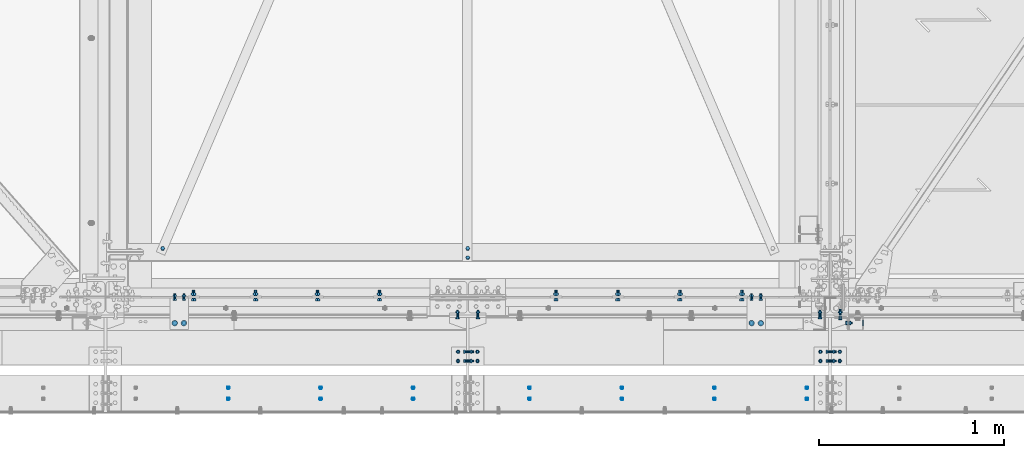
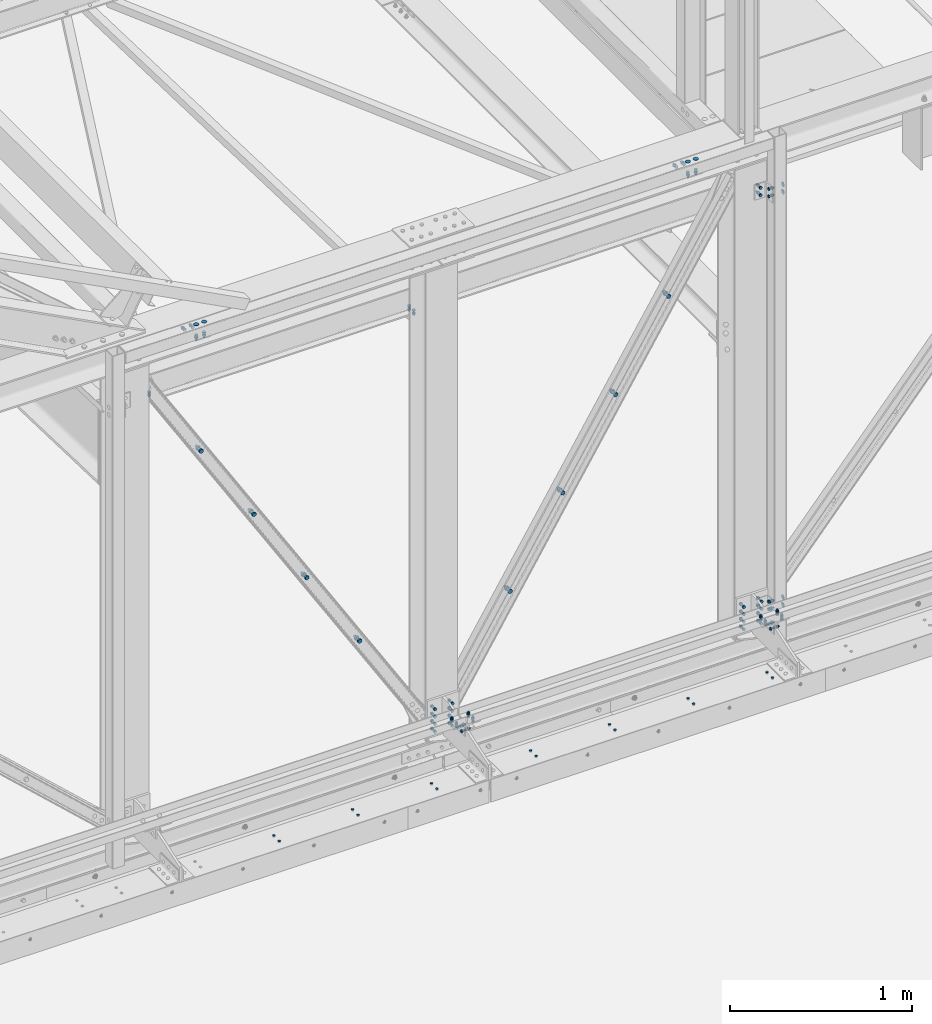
# One storey, part 259 of 362: 42 mechanical fasteners.
"""IFC2X3 building model written with IfcOpenShell, lengths in millimetres."""

import ifcopenshell
import ifcopenshell.guid

model = None  # the IFC model being written
_history = None  # IfcOwnerHistory: only IFC2X3 demands one
_inside = {}  # id of a spatial element -> (the spatial element, [elements in it])
_under = {}  # id of a project, library or spatial element -> (it, [spatial elements below it])
_declared = {}  # id of a project -> (the project, [libraries it declares])
_typed = {}  # id of a type object -> (the type object, [elements of that type])
_made_of = {}  # id of a material, layer set ... -> (it, [elements and type objects made of it])


def new_model(schema):
    """Start an empty IFC model of exactly this schema.

    Asked for "IFC4X3", IfcOpenShell would pick the latest addendum, in which some entities
    have other attributes; the version numbers below select the first issue.
    IFC2X3 requires an IfcOwnerHistory on every rooted entity: one is made here for all.
    """
    global model, _history
    if schema == "IFC4X3":
        model = ifcopenshell.file(schema_version=(4, 3, 0, 0))
    else:
        model = ifcopenshell.file(schema=schema)
    _inside.clear()
    _under.clear()
    _declared.clear()
    _typed.clear()
    _made_of.clear()
    _history = None
    if model.schema == "IFC2X3":
        org = make("IfcOrganization", Name="unknown")
        user = make(
            "IfcPersonAndOrganization",
            ThePerson=make("IfcPerson", FamilyName="unknown"),
            TheOrganization=org,
        )
        app = make(
            "IfcApplication",
            ApplicationDeveloper=org,
            Version="unknown",
            ApplicationFullName="unknown",
            ApplicationIdentifier="unknown",
        )
        _history = make(
            "IfcOwnerHistory",
            OwningUser=user,
            OwningApplication=app,
            ChangeAction="ADDED",
            CreationDate=0,
        )
    return model


def make(cls, **values):
    """One entity of the class cls with the attributes given. An attribute that is None is left unset."""
    return model.create_entity(
        cls, **{name: value for name, value in values.items() if value is not None}
    )


def rooted(cls, **values):
    """An entity with a GlobalId (a new one), such as an element, a storey or a relation."""
    return make(cls, GlobalId=ifcopenshell.guid.new(), OwnerHistory=_history, **values)


def si_unit(unit_type, name, prefix=None):
    """IfcSIUnit, for example si_unit("LENGTHUNIT", "METRE", prefix="MILLI")."""
    return make("IfcSIUnit", UnitType=unit_type, Prefix=prefix, Name=name)


def assignment(units):
    """IfcUnitAssignment: the units of a project."""
    return None if units is None else make("IfcUnitAssignment", Units=units)


def point(xyz):
    """IfcCartesianPoint."""
    return None if xyz is None else make("IfcCartesianPoint", Coordinates=xyz)


def direction(xyz):
    """IfcDirection."""
    return None if xyz is None else make("IfcDirection", DirectionRatios=xyz)


def frame(location, z_axis=None, x_axis=None):
    """IfcAxis2Placement3D, a coordinate frame: its origin and axes. An axis left out is left unset."""
    return make(
        "IfcAxis2Placement3D",
        Location=point(location),
        Axis=direction(z_axis),
        RefDirection=direction(x_axis),
    )


def frame_2d(location, x_axis=None):
    """IfcAxis2Placement2D, a coordinate frame in the plane: its origin and x axis."""
    return make(
        "IfcAxis2Placement2D", Location=point(location), RefDirection=direction(x_axis)
    )


def origin_with_axes():
    """The frame at (0, 0, 0) with the z axis (0, 0, 1) and the x axis (1, 0, 0) written out."""
    return frame((0.0, 0.0, 0.0), z_axis=(0.0, 0.0, 1.0), x_axis=(1.0, 0.0, 0.0))


def origin_2d_with_axis():
    """The frame at (0, 0) in the plane with the x axis (1, 0) written out."""
    return frame_2d((0.0, 0.0), x_axis=(1.0, 0.0))


def place(relative_to, where):
    """IfcLocalPlacement: puts the frame where relative to a parent placement (None: the world)."""
    return make(
        "IfcLocalPlacement", PlacementRelTo=relative_to, RelativePlacement=where
    )


def context(
    kind, dimensions, precision=None, world=None, true_north=None, identifier=None
):
    """IfcGeometricRepresentationContext, for example the 3D "Model" context."""
    return make(
        "IfcGeometricRepresentationContext",
        ContextIdentifier=identifier,
        ContextType=kind,
        CoordinateSpaceDimension=dimensions,
        Precision=precision,
        WorldCoordinateSystem=world,
        TrueNorth=true_north,
    )


def subcontext(parent, identifier, kind, view, scale=None):
    """IfcGeometricRepresentationSubContext, for example "Body" below "Model"."""
    return make(
        "IfcGeometricRepresentationSubContext",
        ContextIdentifier=identifier,
        ContextType=kind,
        ParentContext=parent,
        TargetScale=scale,
        TargetView=view,
    )


def project(units=None, contexts=None):
    """IfcProject with its units and contexts."""
    return rooted(
        "IfcProject",
        Name="project",
        RepresentationContexts=contexts,
        UnitsInContext=assignment(units),
    )


def spatial(cls, under=None, at=None, **own):
    """A site, building, storey or space (cls), placed at a placement, below another one or the project."""
    s = rooted(cls, ObjectPlacement=at, **own)
    if under is not None:
        _under.setdefault(under.id(), (under, []))[1].append(s)
    return s


def polyline(points):
    """IfcPolyline through the points."""
    return make("IfcPolyline", Points=[point(p) for p in points])


def circle_curve(where, radius):
    """IfcCircle in the frame where."""
    return make("IfcCircle", Position=where, Radius=radius)


def parameter(value):
    """IfcParameterValue: where a trimmed curve begins or ends, as a parameter of its basis curve."""
    return model.create_entity("IfcParameterValue", value)


def trimmed(basis, trim1, trim2, sense, master):
    """IfcTrimmedCurve: the piece of a basis curve between two trims."""
    return make(
        "IfcTrimmedCurve",
        BasisCurve=basis,
        Trim1=trim1,
        Trim2=trim2,
        SenseAgreement=sense,
        MasterRepresentation=master,
    )


def segment(curve, same_sense, transition):
    """IfcCompositeCurveSegment."""
    return make(
        "IfcCompositeCurveSegment",
        Transition=transition,
        SameSense=same_sense,
        ParentCurve=curve,
    )


def composite_curve(segments, self_intersect=None):
    """IfcCompositeCurve: segments joined end to end."""
    return make("IfcCompositeCurve", Segments=segments, SelfIntersect=self_intersect)


def profile(cls, at=None, kind="AREA", **sizes):
    """A parametric profile (cls). Its sizes go by their IFC names, for example OverallWidth=200.0."""
    return make(cls, ProfileType=kind, Position=at, **sizes)


def circle(**sizes):
    """IfcCircleProfileDef."""
    return profile("IfcCircleProfileDef", **sizes)


def outline(outer, holes=None, kind="AREA"):
    """IfcArbitraryClosedProfileDef: a profile drawn as a closed curve; with holes, ...WithVoids."""
    if holes is None:
        return make("IfcArbitraryClosedProfileDef", ProfileType=kind, OuterCurve=outer)
    return make(
        "IfcArbitraryProfileDefWithVoids",
        ProfileType=kind,
        OuterCurve=outer,
        InnerCurves=holes,
    )


def extrude(swept, where, along, depth):
    """IfcExtrudedAreaSolid: the profile swept, set in the frame where, extruded along a direction by depth."""
    return make(
        "IfcExtrudedAreaSolid",
        SweptArea=swept,
        Position=where,
        ExtrudedDirection=direction(along),
        Depth=depth,
    )


def shape(context_of_items, identifier, shape_type, items):
    """IfcShapeRepresentation: the items that make up one representation, for example the "Body"."""
    return make(
        "IfcShapeRepresentation",
        ContextOfItems=context_of_items,
        RepresentationIdentifier=identifier,
        RepresentationType=shape_type,
        Items=items,
    )


def source(mapping_origin, context_of_items, identifier, shape_type, items):
    """IfcRepresentationMap: a shape defined once, which mapped items show again and again."""
    return make(
        "IfcRepresentationMap",
        MappingOrigin=mapping_origin,
        MappedRepresentation=shape(context_of_items, identifier, shape_type, items),
    )


def transform(
    local_origin,
    x_axis=None,
    y_axis=None,
    z_axis=None,
    scale=None,
    scale2=None,
    scale3=None,
    uniform=True,
):
    """IfcCartesianTransformationOperator3D, or its non-uniform kind. x_axis, y_axis, z_axis: its Axis1, 2, 3."""
    if uniform:
        return make(
            "IfcCartesianTransformationOperator3D",
            Axis1=direction(x_axis),
            Axis2=direction(y_axis),
            LocalOrigin=point(local_origin),
            Scale=scale,
            Axis3=direction(z_axis),
        )
    return make(
        "IfcCartesianTransformationOperator3DnonUniform",
        Axis1=direction(x_axis),
        Axis2=direction(y_axis),
        LocalOrigin=point(local_origin),
        Scale=scale,
        Axis3=direction(z_axis),
        Scale2=scale2,
        Scale3=scale3,
    )


def mapped(mapping_source, mapping_target):
    """IfcMappedItem: shows the shape of a source again, moved by a transform."""
    return make(
        "IfcMappedItem", MappingSource=mapping_source, MappingTarget=mapping_target
    )


def material(Name=None, Category=None):
    """IfcMaterial."""
    return make("IfcMaterial", Name=Name, Category=Category)


def made_of(thing, what):
    """Note that an element or type object is made of a material, layer set ...; save() writes the relation."""
    if what is not None:
        _made_of.setdefault(what.id(), (what, []))[1].append(thing)
    return thing


def type_object(cls, material=None, **own):
    """A type object (cls), such as IfcWallType, which elements share."""
    return made_of(rooted(cls, **own), material)


def element(
    cls,
    number,
    at=None,
    inside=None,
    cuts=None,
    type_object=None,
    material=None,
    context=None,
    identifier="Body",
    shape_type=None,
    held_by="IfcProductDefinitionShape",
    body=None,
    shapes=None,
    **own,
):
    """One element of the class cls, such as IfcWall. Its Tag is "e" and its number.

    at: its placement. inside: the storey or other place that contains it. cuts: it is an
    opening in that element (IfcRelVoidsElement). A single representation is given by context,
    identifier, shape_type and body (its items); several are given by shapes. held_by: the class
    of the entity that holds the representations. save() writes the other relations.
    """
    e = rooted(cls, Tag="e%d" % number, ObjectPlacement=at, **own)
    if body is not None:
        shapes = [shape(context, identifier, shape_type, body)]
    if shapes is not None:
        e.Representation = make(held_by, Representations=shapes)
    if inside is not None:
        _inside.setdefault(inside.id(), (inside, []))[1].append(e)
    if cuts is not None:
        rooted(
            "IfcRelVoidsElement", RelatingBuildingElement=cuts, RelatedOpeningElement=e
        )
    if type_object is not None:
        _typed.setdefault(type_object.id(), (type_object, []))[1].append(e)
    return made_of(e, material)


def aggregate(whole, parts):
    """IfcRelAggregates: a whole, such as a stair, and the parts it consists of."""
    return rooted("IfcRelAggregates", RelatingObject=whole, RelatedObjects=parts)


def save(model, path):
    """Write the relations noted so far, then the file.

    IfcRelAggregates (storeys below a building ...), IfcRelContainedInSpatialStructure (elements
    in a storey), IfcRelDefinesByType, IfcRelAssociatesMaterial and IfcRelDeclares: one each for
    every whole, place, type object, material and project.
    """
    for whole, parts in _under.values():
        aggregate(whole, parts)
    for where, things in _inside.values():
        rooted(
            "IfcRelContainedInSpatialStructure",
            RelatedElements=things,
            RelatingStructure=where,
        )
    for kind, things in _typed.values():
        rooted("IfcRelDefinesByType", RelatedObjects=things, RelatingType=kind)
    for what, things in _made_of.values():
        rooted("IfcRelAssociatesMaterial", RelatedObjects=things, RelatingMaterial=what)
    for by, libraries in _declared.values():
        rooted("IfcRelDeclares", RelatingContext=by, RelatedDefinitions=libraries)
    model.write(path)


model = new_model("IFC2X3")

# Units and contexts
model_context = context("Model", 3, precision=1e-05, world=origin_with_axes())
body_context = subcontext(model_context, "Body", "Model", "MODEL_VIEW")
ifc_project = project(units=[si_unit("LENGTHUNIT", "METRE", prefix="MILLI"), si_unit("AREAUNIT", "SQUARE_METRE"), si_unit("VOLUMEUNIT", "CUBIC_METRE"), si_unit("MASSUNIT", "GRAM", prefix="KILO"), si_unit("TIMEUNIT", "SECOND"), si_unit("PLANEANGLEUNIT", "RADIAN"), si_unit("SOLIDANGLEUNIT", "STERADIAN"), si_unit("THERMODYNAMICTEMPERATUREUNIT", "DEGREE_CELSIUS"), si_unit("LUMINOUSINTENSITYUNIT", "LUMEN")], contexts=[model_context])

# Site, building, storey
site_placement = place(None, origin_with_axes())
site = spatial("IfcSite", under=ifc_project, at=site_placement, Name="Undefined", CompositionType="ELEMENT")
building_placement = place(site_placement, origin_with_axes())
building = spatial("IfcBuilding", under=site, at=building_placement, Name="Undefined", CompositionType="ELEMENT")
storey_placement = place(building_placement, origin_with_axes())
storey = spatial("IfcBuildingStorey", under=building, at=storey_placement, Name="Undefined", CompositionType="ELEMENT", Elevation=0.0)

# Mechanical fasteners
ifc_material_1 = material(Name="8.8-SB-ZINGUE")
mechanical_fastener_type = type_object("IfcMechanicalFastenerType", Name="Bolt assembly")
shared_shape_1 = source(origin_with_axes(), body_context, "Body", "SweptSolid", [
    extrude(circle(Radius=7.0, at=origin_2d_with_axis()), frame((0.0, -8.5, 0.0), z_axis=(0.0, 1.0, 0.0), x_axis=(1.0, 0.0, 0.0)), (0.0, 0.0, 1.0), 8.6),
])
for number, where, z_axis, x_axis, name in (
    (1, (21844.9989211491, -490.0, 5229.99824538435), (-1.0, 0.0, 0.0), (0.0, -1.0, 0.0), "Bolt assembly"),
    (2, (22344.9989211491, -490.0, 5229.99824538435), (-1.0, 0.0, 0.0), (0.0, -1.0, 0.0), "Bolt assembly"),
    (3, (22844.9989211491, -490.0, 5229.99824538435), (-1.0, 0.0, 0.0), (0.0, -1.0, 0.0), "Bolt assembly"),
    (4, (23344.9989211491, -490.0, 5229.99824538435), (-1.0, 0.0, 0.0), (0.0, -1.0, 0.0), "Bolt assembly"),
    (5, (21214.9989211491, -490.0, 5229.99824538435), (-1.0, 0.0, 0.0), (0.0, -1.0, 0.0), "Bolt assembly"),
    (6, (20714.9989211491, -490.0, 5229.99824538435), (-1.0, 0.0, 0.0), (0.0, -1.0, 0.0), "Bolt assembly"),
    (7, (20214.9989211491, -490.0, 5229.99824538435), (-1.0, 0.0, 0.0), (0.0, -1.0, 0.0), "Bolt assembly"),
):
    element("IfcMechanicalFastener", number, at=place(storey_placement, frame(where, z_axis=z_axis, x_axis=x_axis)), inside=storey, type_object=mechanical_fastener_type, material=ifc_material_1, Name=name, NominalDiameter=12.0, NominalLength=8.5, context=body_context, shape_type="MappedRepresentation", body=[
        mapped(shared_shape_1, transform((0.0, 0.0, 0.0))),
        mapped(shared_shape_1, transform((60.0, 0.0, 0.0))),
    ])
shared_shape_2 = source(origin_with_axes(), body_context, "Body", "SweptSolid", [
    extrude(circle(Radius=7.0, at=origin_2d_with_axis()), frame((0.0, -7.5, 0.0), z_axis=(0.0, 1.0, 0.0), x_axis=(1.0, 0.0, 0.0)), (0.0, 0.0, 1.0), 15.0),
    extrude(circle(Radius=7.0, at=origin_2d_with_axis()), frame((0.0, -15.4, 0.0), z_axis=(0.0, 1.0, 0.0), x_axis=(1.0, 0.0, 0.0)), (0.0, 0.0, 1.0), 8.0),
    extrude(circle(Radius=7.0, at=origin_2d_with_axis()), frame((0.0, 7.39216762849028, 0.0), z_axis=(0.0, 1.0, 0.0), x_axis=(1.0, 0.0, 0.0)), (0.0, 0.0, 1.0), 8.1),
    extrude(outline(polyline([(10.39230484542, 0.0), (5.19615242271, 9.00000000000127), (-5.19615242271, 9.00000000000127), (-10.39230484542, 0.0), (-5.19615242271, -9.00000000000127), (5.19615242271, -9.00000000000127), (10.39230484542, 0.0)])), frame((0.0, -23.42, 0.0), z_axis=(0.0, 1.0, 0.0), x_axis=(1.0, 0.0, 0.0)), (0.0, 0.0, 1.0), 7.92),
    extrude(circle(Radius=6.0, at=origin_2d_with_axis()), frame((0.0, -15.5, 0.0), z_axis=(0.0, 1.0, 0.0), x_axis=(1.0, 0.0, 0.0)), (0.0, 0.0, 1.0), 50.0),
    extrude(outline(polyline([(11.5008173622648, 0.0), (5.7504086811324, 9.96000000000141), (-5.7504086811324, 9.96000000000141), (-11.5008173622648, 0.0), (-5.7504086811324, -9.96000000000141), (5.7504086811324, -9.96000000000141), (11.5008173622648, 0.0)])), frame((0.0, 15.4921676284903, 0.0), z_axis=(0.0, 1.0, 0.0), x_axis=(1.0, 0.0, 0.0)), (0.0, 0.0, 1.0), 7.92),
])
for number, where, z_axis, x_axis, name in (
    (8, (23470.0, -320.0, 5394.99824538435), (0.0, 1.0, 0.0), (0.0, 0.0, 1.0), "Bolt assembly"),
    (9, (21509.9999984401, -320.0, 5394.99824538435), (0.0, 1.0, 0.0), (0.0, 0.0, 1.0), "Bolt assembly"),
):
    element("IfcMechanicalFastener", number, at=place(storey_placement, frame(where, z_axis=z_axis, x_axis=x_axis)), inside=storey, type_object=mechanical_fastener_type, material=ifc_material_1, Name=name, NominalDiameter=12.0, NominalLength=50.0, context=body_context, shape_type="MappedRepresentation", body=[
        mapped(shared_shape_2, transform((0.0, 0.0, -25.0))),
        mapped(shared_shape_2, transform((0.0, 0.0, 25.0))),
    ])
shared_shape_3 = source(origin_with_axes(), body_context, "Body", "SweptSolid", [
    extrude(circle(Radius=7.0, at=origin_2d_with_axis()), frame((0.0, -0.100011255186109, 0.0), z_axis=(0.0, 1.0, 0.0), x_axis=(1.0, 0.0, 0.0)), (0.0, 0.0, 1.0), 4.1),
    extrude(circle(Radius=7.0, at=origin_2d_with_axis()), frame((0.0, -7.9, 0.0), z_axis=(0.0, 1.0, 0.0), x_axis=(1.0, 0.0, 0.0)), (0.0, 0.0, 1.0), 8.0),
    extrude(outline(polyline([(10.39230484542, 0.0), (5.19615242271, 9.00000000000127), (-5.19615242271, 9.00000000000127), (-10.39230484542, 0.0), (-5.19615242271, -9.00000000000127), (5.19615242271, -9.00000000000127), (10.39230484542, 0.0)])), frame((0.0, -15.92, 0.0), z_axis=(0.0, 1.0, 0.0), x_axis=(1.0, 0.0, 0.0)), (0.0, 0.0, 1.0), 7.92),
    extrude(circle(Radius=6.0, at=origin_2d_with_axis()), frame((0.0, -8.0, 0.0), z_axis=(0.0, 1.0, 0.0), x_axis=(1.0, 0.0, 0.0)), (0.0, 0.0, 1.0), 30.0),
    extrude(outline(polyline([(11.5008173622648, 0.0), (5.7504086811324, 9.96000000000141), (-5.7504086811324, 9.96000000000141), (-11.5008173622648, 0.0), (-5.7504086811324, -9.96000000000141), (5.7504086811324, -9.96000000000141), (11.5008173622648, 0.0)])), frame((0.0, 4.00000005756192, 0.0), z_axis=(0.0, 1.0, 0.0), x_axis=(1.0, 0.0, 0.0)), (0.0, 0.0, 1.0), 7.92),
])
for number, where, z_axis, x_axis, name in (
    (10, (23522.4921676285, -320.0, 5449.99824532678), (0.0, 1.0, 0.0), (-1.0, 0.0, 0.0), "Bolt assembly"),
    (11, (23417.5, -320.0, 5449.99824532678), (0.0, -1.0, 0.0), (1.0, 0.0, 0.0), "Bolt assembly"),
    (12, (21562.4921660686, -320.0, 5449.99824532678), (0.0, 1.0, 0.0), (-1.0, 0.0, 0.0), "Bolt assembly"),
    (13, (21457.4999984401, -320.0, 5449.99824532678), (0.0, -1.0, 0.0), (1.0, 0.0, 0.0), "Bolt assembly"),
):
    element("IfcMechanicalFastener", number, at=place(storey_placement, frame(where, z_axis=z_axis, x_axis=x_axis)), inside=storey, type_object=mechanical_fastener_type, material=ifc_material_1, Name=name, NominalDiameter=12.0, NominalLength=30.0, context=body_context, shape_type="MappedRepresentation", body=[
        mapped(shared_shape_3, transform((0.0, 0.0, -25.0))),
        mapped(shared_shape_3, transform((0.0, 0.0, 25.0))),
    ])
shared_shape_4 = source(origin_with_axes(), body_context, "Body", "SweptSolid", [
    extrude(circle(Radius=7.0, at=origin_2d_with_axis()), frame((0.0, -0.108038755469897, 0.0), z_axis=(0.0, 1.0, 0.0), x_axis=(1.0, 0.0, 0.0)), (0.0, 0.0, 1.0), 4.1),
    extrude(outline(composite_curve([segment(polyline([(-5.5, 7.0), (5.5, 7.0)]), True, "CONTINUOUS"), segment(trimmed(circle_curve(frame_2d((5.5, 0.0), x_axis=(0.0, 1.0)), 7.0), [parameter(0.0)], [parameter(3.14159265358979)], False, "PARAMETER"), True, "CONTINUOUS"), segment(polyline([(5.5, -7.0), (-5.5, -7.0)]), True, "CONTINUOUS"), segment(trimmed(circle_curve(frame_2d((-5.5, 0.0), x_axis=(0.0, -1.0)), 7.0), [parameter(0.0)], [parameter(3.14159265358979)], False, "PARAMETER"), True, "DISCONTINUOUS")], self_intersect=False)), frame((0.0, -4.90000000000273, 0.0), z_axis=(0.0, 1.0, 0.0), x_axis=(1.0, 0.0, 0.0)), (0.0, 0.0, 1.0), 5.0),
    extrude(outline(polyline([(10.39230484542, 0.0), (5.19615242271, 9.00000000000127), (-5.19615242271, 9.00000000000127), (-10.39230484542, 0.0), (-5.19615242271, -9.00000000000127), (5.19615242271, -9.00000000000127), (10.39230484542, 0.0)])), frame((0.0, -16.8799999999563, 0.0), z_axis=(0.0, 1.0, 0.0), x_axis=(1.0, 0.0, 0.0)), (0.0, 0.0, 1.0), 7.92),
    extrude(circle(Radius=6.0, at=origin_2d_with_axis()), frame((0.0, -8.95999999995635, 0.0), z_axis=(0.0, 1.0, 0.0), x_axis=(1.0, 0.0, 0.0)), (0.0, 0.0, 1.0), 30.0),
    extrude(circle(Radius=10.8, at=origin_2d_with_axis()), frame((0.0, -8.95999999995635, 0.0), z_axis=(0.0, 1.0, 0.0), x_axis=(1.0, 0.0, 0.0)), (0.0, 0.0, 1.0), 3.96),
    extrude(outline(polyline([(11.5008173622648, 0.0), (5.7504086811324, 9.96000000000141), (-5.7504086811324, 9.96000000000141), (-11.5008173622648, 0.0), (-5.7504086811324, -9.96000000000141), (5.7504086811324, -9.96000000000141), (11.5008173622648, 0.0)])), frame((0.0, 3.9919612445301, 0.0), z_axis=(0.0, 1.0, 0.0), x_axis=(1.0, 0.0, 0.0)), (0.0, 0.0, 1.0), 7.92),
])
mechanical_fastener_1_placement = place(storey_placement, frame((23570.0080387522, -140.000000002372, 5390.00066228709), z_axis=(0.0, 0.0, -1.0), x_axis=(0.0, 1.0, 0.0)))
element("IfcMechanicalFastener", 14, at=mechanical_fastener_1_placement, inside=storey, type_object=mechanical_fastener_type, material=ifc_material_1, Name="Bolt assembly", NominalDiameter=12.0, NominalLength=30.0, context=body_context, shape_type="MappedRepresentation", body=[
    mapped(shared_shape_4, transform((0.0, 0.0, 25.0))),
    mapped(shared_shape_4, transform((0.0, 0.0, -25.0))),
])
shared_shape_5 = source(origin_with_axes(), body_context, "Body", "SweptSolid", [
    extrude(circle(Radius=7.0, at=origin_2d_with_axis()), frame((0.0, 4.89855588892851, 0.0), z_axis=(0.0, 1.0, 0.0), x_axis=(1.0, 0.0, 0.0)), (0.0, 0.0, 1.0), 10.1),
    extrude(circle(Radius=7.0, at=origin_2d_with_axis()), frame((0.0, -9.90144411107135, 0.0), z_axis=(0.0, 1.0, 0.0), x_axis=(1.0, 0.0, 0.0)), (0.0, 0.0, 1.0), 15.0),
    extrude(outline(polyline([(10.39230484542, 0.0), (5.19615242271, 9.00000000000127), (-5.19615242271, 9.00000000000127), (-10.39230484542, 0.0), (-5.19615242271, -9.00000000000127), (5.19615242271, -9.00000000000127), (10.39230484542, 0.0)])), frame((0.0, -17.9214441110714, 0.0), z_axis=(0.0, 1.0, 0.0), x_axis=(1.0, 0.0, 0.0)), (0.0, 0.0, 1.0), 7.92),
    extrude(circle(Radius=6.0, at=origin_2d_with_axis()), frame((0.0, -10.0014441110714, 0.0), z_axis=(0.0, 1.0, 0.0), x_axis=(1.0, 0.0, 0.0)), (0.0, 0.0, 1.0), 40.0),
    extrude(outline(polyline([(11.5008173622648, 0.0), (5.7504086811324, 9.96000000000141), (-5.7504086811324, 9.96000000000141), (-11.5008173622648, 0.0), (-5.7504086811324, -9.96000000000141), (5.7504086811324, -9.96000000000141), (11.5008173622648, 0.0)])), frame((0.0, 14.9985558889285, 0.0), z_axis=(0.0, 1.0, 0.0), x_axis=(1.0, 0.0, 0.0)), (0.0, 0.0, 1.0), 7.92),
])
mechanical_fastener_2_placement = place(storey_placement, frame((23524.9999023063, -99.9985558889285, 5290.00066228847), z_axis=(0.0, 0.0, 1.0), x_axis=(1.0, 0.0, 0.0)))
element("IfcMechanicalFastener", 15, at=mechanical_fastener_2_placement, inside=storey, type_object=mechanical_fastener_type, material=ifc_material_1, Name="Bolt assembly", NominalDiameter=12.0, NominalLength=40.0, context=body_context, shape_type="MappedRepresentation", body=[
    mapped(shared_shape_5, transform((0.0, 0.0, 25.0))),
    mapped(shared_shape_5, transform((0.0, 0.0, -25.0))),
])
mechanical_fastener_3_placement = place(storey_placement, frame((23415.0012970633, -99.9985558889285, 5290.00066228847), z_axis=(0.0, 0.0, -1.0), x_axis=(-1.0, 0.0, 0.0)))
element("IfcMechanicalFastener", 16, at=mechanical_fastener_3_placement, inside=storey, type_object=mechanical_fastener_type, material=ifc_material_1, Name="Bolt assembly", NominalDiameter=12.0, NominalLength=40.0, context=body_context, shape_type="MappedRepresentation", body=[
    mapped(shared_shape_5, transform((0.0, 0.0, -25.0))),
    mapped(shared_shape_5, transform((0.0, 0.0, 25.0))),
])
mechanical_fastener_4_placement = place(storey_placement, frame((21564.9999007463, -99.9985558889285, 5290.00066228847), z_axis=(0.0, 0.0, 1.0), x_axis=(1.0, 0.0, 0.0)))
element("IfcMechanicalFastener", 17, at=mechanical_fastener_4_placement, inside=storey, type_object=mechanical_fastener_type, material=ifc_material_1, Name="Bolt assembly", NominalDiameter=12.0, NominalLength=40.0, context=body_context, shape_type="MappedRepresentation", body=[
    mapped(shared_shape_5, transform((0.0, 0.0, 25.0))),
    mapped(shared_shape_5, transform((0.0, 0.0, -25.0))),
])
mechanical_fastener_5_placement = place(storey_placement, frame((21455.0012955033, -99.9985558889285, 5290.00066228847), z_axis=(0.0, 0.0, -1.0), x_axis=(-1.0, 0.0, 0.0)))
element("IfcMechanicalFastener", 18, at=mechanical_fastener_5_placement, inside=storey, type_object=mechanical_fastener_type, material=ifc_material_1, Name="Bolt assembly", NominalDiameter=12.0, NominalLength=40.0, context=body_context, shape_type="MappedRepresentation", body=[
    mapped(shared_shape_5, transform((0.0, 0.0, -25.0))),
    mapped(shared_shape_5, transform((0.0, 0.0, 25.0))),
])
shared_shape_6 = source(origin_with_axes(), body_context, "Body", "SweptSolid", [
    extrude(circle(Radius=7.0, at=origin_2d_with_axis()), frame((0.0, -0.100011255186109, 0.0), z_axis=(0.0, 1.0, 0.0), x_axis=(1.0, 0.0, 0.0)), (0.0, 0.0, 1.0), 10.1),
    extrude(circle(Radius=7.0, at=origin_2d_with_axis()), frame((0.0, -14.899999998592, 0.0), z_axis=(0.0, 1.0, 0.0), x_axis=(1.0, 0.0, 0.0)), (0.0, 0.0, 1.0), 15.0),
    extrude(outline(polyline([(10.39230484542, 0.0), (5.19615242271, 9.00000000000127), (-5.19615242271, 9.00000000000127), (-10.39230484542, 0.0), (-5.19615242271, -9.00000000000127), (5.19615242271, -9.00000000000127), (10.39230484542, 0.0)])), frame((0.0, -22.919999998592, 0.0), z_axis=(0.0, 1.0, 0.0), x_axis=(1.0, 0.0, 0.0)), (0.0, 0.0, 1.0), 7.92),
    extrude(circle(Radius=6.0, at=origin_2d_with_axis()), frame((0.0, -14.999999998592, 0.0), z_axis=(0.0, 1.0, 0.0), x_axis=(1.0, 0.0, 0.0)), (0.0, 0.0, 1.0), 40.0),
    extrude(outline(polyline([(11.5008173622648, 0.0), (5.7504086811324, 9.96000000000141), (-5.7504086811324, 9.96000000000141), (-11.5008173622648, 0.0), (-5.7504086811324, -9.96000000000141), (5.7504086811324, -9.96000000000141), (11.5008173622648, 0.0)])), frame((0.0, 10.0000000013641, 0.0), z_axis=(0.0, 1.0, 0.0), x_axis=(1.0, 0.0, 0.0)), (0.0, 0.0, 1.0), 7.92),
])
mechanical_fastener_6_placement = place(storey_placement, frame((23415.0094335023, -95.0000000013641, 5390.00066228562), z_axis=(0.0, 0.0, -1.0), x_axis=(-1.0, 0.0, 0.0)))
element("IfcMechanicalFastener", 19, at=mechanical_fastener_6_placement, inside=storey, type_object=mechanical_fastener_type, material=ifc_material_1, Name="Bolt assembly", NominalDiameter=12.0, NominalLength=40.0, context=body_context, shape_type="MappedRepresentation", body=[
    mapped(shared_shape_6, transform((0.0, 0.0, -25.0))),
    mapped(shared_shape_6, transform((0.0, 0.0, 25.0))),
])
mechanical_fastener_7_placement = place(storey_placement, frame((21564.9999007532, -95.0000000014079, 5390.00066228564), z_axis=(0.0, 0.0, 1.0), x_axis=(1.0, 0.0, 0.0)))
element("IfcMechanicalFastener", 20, at=mechanical_fastener_7_placement, inside=storey, type_object=mechanical_fastener_type, material=ifc_material_1, Name="Bolt assembly", NominalDiameter=12.0, NominalLength=40.0, context=body_context, shape_type="MappedRepresentation", body=[
    mapped(shared_shape_6, transform((0.0, 0.0, 25.0))),
    mapped(shared_shape_6, transform((0.0, 0.0, -25.0))),
])
mechanical_fastener_8_placement = place(storey_placement, frame((21455.0012954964, -95.0000000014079, 5390.00066228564), z_axis=(0.0, 0.0, -1.0), x_axis=(-1.0, 0.0, 0.0)))
element("IfcMechanicalFastener", 21, at=mechanical_fastener_8_placement, inside=storey, type_object=mechanical_fastener_type, material=ifc_material_1, Name="Bolt assembly", NominalDiameter=12.0, NominalLength=40.0, context=body_context, shape_type="MappedRepresentation", body=[
    mapped(shared_shape_6, transform((0.0, 0.0, -25.0))),
    mapped(shared_shape_6, transform((0.0, 0.0, 25.0))),
])
shared_shape_7 = source(origin_with_axes(), body_context, "Body", "SweptSolid", [
    extrude(circle(Radius=7.0, at=origin_2d_with_axis()), frame((0.0, -0.100011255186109, 0.0), z_axis=(0.0, 1.0, 0.0), x_axis=(1.0, 0.0, 0.0)), (0.0, 0.0, 1.0), 10.1),
    extrude(circle(Radius=7.0, at=origin_2d_with_axis()), frame((0.0, -14.999999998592, 0.0), z_axis=(0.0, 1.0, 0.0), x_axis=(1.0, 0.0, 0.0)), (0.0, 0.0, 1.0), 15.0),
    extrude(circle(Radius=7.0, at=origin_2d_with_axis()), frame((0.0, -19.900541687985, 0.0), z_axis=(0.0, 1.0, 0.0), x_axis=(1.0, 0.0, 0.0)), (0.0, 0.0, 1.0), 5.0),
    extrude(outline(polyline([(10.39230484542, 0.0), (5.19615242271, 9.00000000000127), (-5.19615242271, 9.00000000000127), (-10.39230484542, 0.0), (-5.19615242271, -9.00000000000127), (5.19615242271, -9.00000000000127), (10.39230484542, 0.0)])), frame((0.0, -27.920541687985, 0.0), z_axis=(0.0, 1.0, 0.0), x_axis=(1.0, 0.0, 0.0)), (0.0, 0.0, 1.0), 7.92),
    extrude(circle(Radius=6.0, at=origin_2d_with_axis()), frame((0.0, -20.000541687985, 0.0), z_axis=(0.0, 1.0, 0.0), x_axis=(1.0, 0.0, 0.0)), (0.0, 0.0, 1.0), 50.0),
    extrude(outline(polyline([(11.5008173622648, 0.0), (5.7504086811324, 9.96000000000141), (-5.7504086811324, 9.96000000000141), (-11.5008173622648, 0.0), (-5.7504086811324, -9.96000000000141), (5.7504086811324, -9.96000000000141), (11.5008173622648, 0.0)])), frame((0.0, 10.0000000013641, 0.0), z_axis=(0.0, 1.0, 0.0), x_axis=(1.0, 0.0, 0.0)), (0.0, 0.0, 1.0), 7.92),
])
mechanical_fastener_9_placement = place(storey_placement, frame((23525.0080387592, -95.0000000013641, 5390.00066228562), z_axis=(0.0, 0.0, 1.0), x_axis=(1.0, 0.0, 0.0)))
element("IfcMechanicalFastener", 22, at=mechanical_fastener_9_placement, inside=storey, type_object=mechanical_fastener_type, material=ifc_material_1, Name="Bolt assembly", NominalDiameter=12.0, NominalLength=50.0, context=body_context, shape_type="MappedRepresentation", body=[
    mapped(shared_shape_7, transform((0.0, 0.0, 25.0))),
    mapped(shared_shape_7, transform((0.0, 0.0, -25.0))),
])
ifc_material_2 = material(Name="6.8")
shared_shape_8 = source(origin_with_axes(), body_context, "Body", "SweptSolid", [
    extrude(circle(Radius=15.0, at=origin_2d_with_axis()), frame((0.0, -3.99999923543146, 0.0), z_axis=(0.0, 1.0, 0.0), x_axis=(1.0, 0.0, 0.0)), (0.0, 0.0, 1.0), 4.1),
])
for number, where, z_axis, x_axis, name in (
    (23, (23069.9997074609, -140.0, 8550.0), (1.0, 0.0, 0.0), (0.0, 1.0, 0.0), "Bolt assembly"),
    (24, (19949.9997074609, -140.0, 8550.0), (1.0, 0.0, 0.0), (0.0, 1.0, 0.0), "Bolt assembly"),
):
    element("IfcMechanicalFastener", number, at=place(storey_placement, frame(where, z_axis=z_axis, x_axis=x_axis)), inside=storey, type_object=mechanical_fastener_type, material=ifc_material_2, Name=name, NominalDiameter=30.0, NominalLength=4.0, context=body_context, shape_type="MappedRepresentation", body=[
        mapped(shared_shape_8, transform((0.0, 0.0, -25.0))),
        mapped(shared_shape_8, transform((0.0, 0.0, 25.0))),
    ])
shared_shape_9 = source(origin_with_axes(), body_context, "Body", "SweptSolid", [
    extrude(circle(Radius=7.0, at=origin_2d_with_axis()), frame((0.0, -3.35, 0.0), z_axis=(0.0, 1.0, 0.0), x_axis=(1.0, 0.0, 0.0)), (0.0, 0.0, 1.0), 6.6),
    extrude(circle(Radius=7.0, at=origin_2d_with_axis()), frame((0.0, -8.9, 0.0), z_axis=(0.0, 1.0, 0.0), x_axis=(1.0, 0.0, 0.0)), (0.0, 0.0, 1.0), 5.0),
    extrude(outline(polyline([(10.39230484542, 0.0), (5.19615242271, 9.00000000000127), (-5.19615242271, 9.00000000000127), (-10.39230484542, 0.0), (-5.19615242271, -9.00000000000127), (5.19615242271, -9.00000000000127), (10.39230484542, 0.0)])), frame((0.0, -16.92, 0.0), z_axis=(0.0, 1.0, 0.0), x_axis=(1.0, 0.0, 0.0)), (0.0, 0.0, 1.0), 7.92),
    extrude(circle(Radius=6.0, at=origin_2d_with_axis()), frame((0.0, -9.0, 0.0), z_axis=(0.0, 1.0, 0.0), x_axis=(1.0, 0.0, 0.0)), (0.0, 0.0, 1.0), 30.0),
    extrude(outline(polyline([(11.5008173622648, 0.0), (5.7504086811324, 9.96000000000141), (-5.7504086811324, 9.96000000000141), (-11.5008173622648, 0.0), (-5.7504086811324, -9.96000000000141), (5.7504086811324, -9.96000000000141), (11.5008173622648, 0.0)])), frame((0.0, 3.25, 0.0), z_axis=(0.0, 1.0, 0.0), x_axis=(1.0, 0.0, 0.0)), (0.0, 0.0, 1.0), 7.92),
])
for number, where, z_axis, x_axis, name in (
    (25, (23069.9997074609, 0.0, 8435.0), (-1.0, 0.0, 0.0), (0.0, 0.0, 1.0), "Bolt assembly"),
    (26, (19949.9997074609, 0.0, 8435.0), (-1.0, 0.0, 0.0), (0.0, 0.0, 1.0), "Bolt assembly"),
):
    element("IfcMechanicalFastener", number, at=place(storey_placement, frame(where, z_axis=z_axis, x_axis=x_axis)), inside=storey, type_object=mechanical_fastener_type, material=ifc_material_1, Name=name, NominalDiameter=12.0, NominalLength=30.0, context=body_context, shape_type="MappedRepresentation", body=[
        mapped(shared_shape_9, transform((0.0, 0.0, -25.0))),
        mapped(shared_shape_9, transform((0.0, 0.0, 25.0))),
    ])
shared_shape_10 = source(origin_with_axes(), body_context, "Body", "SweptSolid", [
    extrude(circle(Radius=7.0, at=origin_2d_with_axis()), frame((0.0, -3.89999843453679, 0.0), z_axis=(0.0, 1.0, 0.0), x_axis=(1.0, 0.0, 0.0)), (0.0, 0.0, 1.0), 4.0),
    extrude(circle(Radius=7.0, at=origin_2d_with_axis()), frame((0.0, -0.100011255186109, 0.0), z_axis=(0.0, 1.0, 0.0), x_axis=(1.0, 0.0, 0.0)), (0.0, 0.0, 1.0), 5.1),
    extrude(outline(polyline([(10.39230484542, 0.0), (5.19615242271, 9.00000000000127), (-5.19615242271, 9.00000000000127), (-10.39230484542, 0.0), (-5.19615242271, -9.00000000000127), (5.19615242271, -9.00000000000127), (10.39230484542, 0.0)])), frame((0.0, -11.9199984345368, 0.0), z_axis=(0.0, 1.0, 0.0), x_axis=(1.0, 0.0, 0.0)), (0.0, 0.0, 1.0), 7.92),
    extrude(circle(Radius=6.0, at=origin_2d_with_axis()), frame((0.0, -3.99999923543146, 0.0), z_axis=(0.0, 1.0, 0.0), x_axis=(1.0, 0.0, 0.0)), (0.0, 0.0, 1.0), 30.0),
    extrude(outline(polyline([(11.5008173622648, 0.0), (5.7504086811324, 9.96000000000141), (-5.7504086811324, 9.96000000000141), (-11.5008173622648, 0.0), (-5.7504086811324, -9.96000000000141), (5.7504086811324, -9.96000000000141), (11.5008173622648, 0.0)])), frame((0.0, 5.0, 0.0), z_axis=(0.0, 1.0, 0.0), x_axis=(1.0, 0.0, 0.0)), (0.0, 0.0, 1.0), 7.92),
])
for number, where, z_axis, x_axis, name in (
    (27, (23069.9997074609, -140.0, 8470.0), (-1.0, 0.0, 0.0), (0.0, 1.0, 0.0), "Bolt assembly"),
    (28, (19949.9997074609, -140.0, 8470.0), (-1.0, 0.0, 0.0), (0.0, 1.0, 0.0), "Bolt assembly"),
):
    element("IfcMechanicalFastener", number, at=place(storey_placement, frame(where, z_axis=z_axis, x_axis=x_axis)), inside=storey, type_object=mechanical_fastener_type, material=ifc_material_1, Name=name, NominalDiameter=12.0, NominalLength=30.0, context=body_context, shape_type="MappedRepresentation", body=[
        mapped(shared_shape_10, transform((0.0, 0.0, -25.0))),
        mapped(shared_shape_10, transform((0.0, 0.0, 25.0))),
    ])
shared_shape_11 = source(origin_with_axes(), body_context, "Body", "SweptSolid", [
    extrude(circle(Radius=15.0, at=origin_2d_with_axis()), frame((0.0, -4.00617860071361, 0.0), z_axis=(0.0, 1.0, 0.0), x_axis=(1.0, 0.0, 0.0)), (0.0, 0.0, 1.0), 4.1),
])
for number, where, z_axis, x_axis, name in (
    (29, (23650.0061785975, -139.999999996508, 8160.00066229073), (0.0, 0.0, -1.0), (0.0, 1.0, 0.0), "Bolt assembly"),
    (30, (23650.0061785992, -139.999999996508, 5390.00066229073), (0.0, 0.0, -1.0), (0.0, 1.0, 0.0), "Bolt assembly"),
):
    element("IfcMechanicalFastener", number, at=place(storey_placement, frame(where, z_axis=z_axis, x_axis=x_axis)), inside=storey, type_object=mechanical_fastener_type, material=ifc_material_2, Name=name, NominalDiameter=30.0, NominalLength=4.0, context=body_context, shape_type="MappedRepresentation", body=[
        mapped(shared_shape_11, transform((0.0, 0.0, 25.0))),
        mapped(shared_shape_11, transform((0.0, 0.0, -25.0))),
    ])
shared_shape_12 = source(origin_with_axes(), body_context, "Body", "SweptSolid", [
    extrude(circle(Radius=7.0, at=origin_2d_with_axis()), frame((0.0, -0.106178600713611, 0.0), z_axis=(0.0, 1.0, 0.0), x_axis=(1.0, 0.0, 0.0)), (0.0, 0.0, 1.0), 4.1),
    extrude(circle(Radius=7.0, at=origin_2d_with_axis()), frame((0.0, -7.9, 0.0), z_axis=(0.0, 1.0, 0.0), x_axis=(1.0, 0.0, 0.0)), (0.0, 0.0, 1.0), 8.0),
    extrude(outline(polyline([(10.39230484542, 0.0), (5.19615242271, 9.00000000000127), (-5.19615242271, 9.00000000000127), (-10.39230484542, 0.0), (-5.19615242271, -9.00000000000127), (5.19615242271, -9.00000000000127), (10.39230484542, 0.0)])), frame((0.0, -15.92, 0.0), z_axis=(0.0, 1.0, 0.0), x_axis=(1.0, 0.0, 0.0)), (0.0, 0.0, 1.0), 7.92),
    extrude(circle(Radius=6.0, at=origin_2d_with_axis()), frame((0.0, -8.0, 0.0), z_axis=(0.0, 1.0, 0.0), x_axis=(1.0, 0.0, 0.0)), (0.0, 0.0, 1.0), 30.0),
    extrude(outline(polyline([(11.5008173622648, 0.0), (5.7504086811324, 9.96000000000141), (-5.7504086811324, 9.96000000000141), (-11.5008173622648, 0.0), (-5.7504086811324, -9.96000000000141), (5.7504086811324, -9.96000000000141), (11.5008173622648, 0.0)])), frame((0.0, 3.99382139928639, 0.0), z_axis=(0.0, 1.0, 0.0), x_axis=(1.0, 0.0, 0.0)), (0.0, 0.0, 1.0), 7.92),
])
mechanical_fastener_10_placement = place(storey_placement, frame((23570.0061785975, -139.99999999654, 8160.00066229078), z_axis=(0.0, 0.0, -1.0), x_axis=(0.0, 1.0, 0.0)))
element("IfcMechanicalFastener", 31, at=mechanical_fastener_10_placement, inside=storey, type_object=mechanical_fastener_type, material=ifc_material_1, Name="Bolt assembly", NominalDiameter=12.0, NominalLength=30.0, context=body_context, shape_type="MappedRepresentation", body=[
    mapped(shared_shape_12, transform((0.0, 0.0, 25.0))),
    mapped(shared_shape_12, transform((0.0, 0.0, -25.0))),
])
shared_shape_13 = source(origin_with_axes(), body_context, "Body", "SweptSolid", [
    extrude(circle(Radius=7.0, at=origin_2d_with_axis()), frame((0.0, -0.100011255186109, 0.0), z_axis=(0.0, 1.0, 0.0), x_axis=(1.0, 0.0, 0.0)), (0.0, 0.0, 1.0), 10.1),
    extrude(circle(Radius=7.0, at=origin_2d_with_axis()), frame((0.0, -7.9, 0.0), z_axis=(0.0, 1.0, 0.0), x_axis=(1.0, 0.0, 0.0)), (0.0, 0.0, 1.0), 8.0),
    extrude(outline(polyline([(10.39230484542, 0.0), (5.19615242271, 9.00000000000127), (-5.19615242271, 9.00000000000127), (-10.39230484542, 0.0), (-5.19615242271, -9.00000000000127), (5.19615242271, -9.00000000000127), (10.39230484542, 0.0)])), frame((0.0, -15.92, 0.0), z_axis=(0.0, 1.0, 0.0), x_axis=(1.0, 0.0, 0.0)), (0.0, 0.0, 1.0), 7.92),
    extrude(circle(Radius=6.0, at=origin_2d_with_axis()), frame((0.0, -8.0, 0.0), z_axis=(0.0, 1.0, 0.0), x_axis=(1.0, 0.0, 0.0)), (0.0, 0.0, 1.0), 40.0),
    extrude(outline(polyline([(11.5008173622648, 0.0), (5.7504086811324, 9.96000000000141), (-5.7504086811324, 9.96000000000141), (-11.5008173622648, 0.0), (-5.7504086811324, -9.96000000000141), (5.7504086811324, -9.96000000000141), (11.5008173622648, 0.0)])), frame((0.0, 10.0000000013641, 0.0), z_axis=(0.0, 1.0, 0.0), x_axis=(1.0, 0.0, 0.0)), (0.0, 0.0, 1.0), 7.92),
])
mechanical_fastener_11_placement = place(storey_placement, frame((23525.0061785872, -94.9999999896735, 8160.00066227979), z_axis=(0.0, 0.0, 1.0), x_axis=(1.0, 0.0, 0.0)))
element("IfcMechanicalFastener", 32, at=mechanical_fastener_11_placement, inside=storey, type_object=mechanical_fastener_type, material=ifc_material_1, Name="Bolt assembly", NominalDiameter=12.0, NominalLength=40.0, context=body_context, shape_type="MappedRepresentation", body=[
    mapped(shared_shape_13, transform((0.0, 0.0, 25.0))),
    mapped(shared_shape_13, transform((0.0, 0.0, -25.0))),
])
shared_shape_14 = source(origin_with_axes(), body_context, "Body", "SweptSolid", [
    extrude(circle(Radius=9.0, at=origin_2d_with_axis()), frame((0.0, -10.9000000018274, 0.0), z_axis=(0.0, 1.0, 0.0), x_axis=(1.0, 0.0, 0.0)), (0.0, 0.0, 1.0), 6.0),
    extrude(circle(Radius=9.0, at=origin_2d_with_axis()), frame((0.0, 4.9000000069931, 0.0), z_axis=(0.0, 1.0, 0.0), x_axis=(1.0, 0.0, 0.0)), (0.0, 0.0, 1.0), 6.1),
    extrude(circle(Radius=9.0, at=origin_2d_with_axis()), frame((0.0, -3.99999923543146, 0.0), z_axis=(0.0, 1.0, 0.0), x_axis=(1.0, 0.0, 0.0)), (0.0, 0.0, 1.0), 8.0),
    extrude(outline(polyline([(13.85640646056, 0.0), (6.92820323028, 12.0000000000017), (-6.92820323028, 12.0000000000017), (-13.85640646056, 0.0), (-6.92820323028, -12.0000000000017), (6.92820323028, -12.0000000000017), (13.85640646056, 0.0)])), frame((0.0, -21.5600000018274, 0.0), z_axis=(0.0, 1.0, 0.0), x_axis=(1.0, 0.0, 0.0)), (0.0, 0.0, 1.0), 10.56),
    extrude(circle(Radius=8.0, at=origin_2d_with_axis()), frame((0.0, -11.0000000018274, 0.0), z_axis=(0.0, 1.0, 0.0), x_axis=(1.0, 0.0, 0.0)), (0.0, 0.0, 1.0), 50.0),
    extrude(outline(polyline([(15.3344231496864, 0.0), (7.6672115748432, 13.2800000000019), (-7.6672115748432, 13.2800000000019), (-15.3344231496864, 0.0), (-7.6672115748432, -13.2800000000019), (7.6672115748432, -13.2800000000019), (15.3344231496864, 0.0)])), frame((0.0, 11.0000000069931, 0.0), z_axis=(0.0, 1.0, 0.0), x_axis=(1.0, 0.0, 0.0)), (0.0, 0.0, 1.0), 10.56),
])
for number, where, z_axis, x_axis, name in (
    (33, (22992.8053225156, 0.0, 7588.21035510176), (1.0, 0.0, 0.0), (0.0, 0.0, -1.0), "Bolt assembly"),
    (34, (22657.6017207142, 0.0, 7046.07011774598), (1.0, 0.0, 0.0), (0.0, 0.0, -1.0), "Bolt assembly"),
    (35, (22322.3981189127, 0.0, 6503.9298803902), (1.0, 0.0, 0.0), (0.0, 0.0, -1.0), "Bolt assembly"),
    (36, (21987.1945171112, 0.0, 5961.78964303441), (1.0, 0.0, 0.0), (0.0, 0.0, -1.0), "Bolt assembly"),
    (37, (21032.8052344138, 0.0, 5961.7896507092), (1.0, 0.0, 0.0), (0.0, 0.0, -1.0), "Bolt assembly"),
    (38, (20697.6016918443, 0.0, 6503.92988318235), (1.0, 0.0, 0.0), (0.0, 0.0, -1.0), "Bolt assembly"),
    (39, (20362.3981492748, 0.0, 7046.0701156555), (1.0, 0.0, 0.0), (0.0, 0.0, -1.0), "Bolt assembly"),
    (40, (20027.1946067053, 0.0, 7588.21034812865), (1.0, 0.0, 0.0), (0.0, 0.0, -1.0), "Bolt assembly"),
):
    element("IfcMechanicalFastener", number, at=place(storey_placement, frame(where, z_axis=z_axis, x_axis=x_axis)), inside=storey, type_object=mechanical_fastener_type, material=ifc_material_1, Name=name, NominalDiameter=16.0, NominalLength=50.0, context=body_context, shape_type="MappedRepresentation", body=[
        mapped(shared_shape_14, transform((0.0, 0.0, 0.0))),
    ])
shared_shape_15 = source(origin_with_axes(), body_context, "Body", "SweptSolid", [
    extrude(circle(Radius=7.0, at=origin_2d_with_axis()), frame((0.0, -27.893222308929, 0.0), z_axis=(0.0, 1.0, 0.0), x_axis=(1.0, 0.0, 0.0)), (0.0, 0.0, 1.0), 8.0),
    extrude(circle(Radius=7.0, at=origin_2d_with_axis()), frame((0.0, -20.0965527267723, 0.0), z_axis=(0.0, 1.0, 0.0), x_axis=(1.0, 0.0, 0.0)), (0.0, 0.0, 1.0), 5.1),
    extrude(outline(polyline([(10.39230484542, 0.0), (5.19615242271, 9.00000000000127), (-5.19615242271, 9.00000000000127), (-10.39230484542, 0.0), (-5.19615242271, -9.00000000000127), (5.19615242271, -9.00000000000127), (10.39230484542, 0.0)])), frame((0.0, -35.913222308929, 0.0), z_axis=(0.0, 1.0, 0.0), x_axis=(1.0, 0.0, 0.0)), (0.0, 0.0, 1.0), 7.92),
    extrude(circle(Radius=6.0, at=origin_2d_with_axis()), frame((0.0, -27.993222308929, 0.0), z_axis=(0.0, 1.0, 0.0), x_axis=(1.0, 0.0, 0.0)), (0.0, 0.0, 1.0), 30.0),
    extrude(outline(polyline([(11.5008173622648, 0.0), (5.7504086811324, 9.96000000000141), (-5.7504086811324, 9.96000000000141), (-11.5008173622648, 0.0), (-5.7504086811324, -9.96000000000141), (5.7504086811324, -9.96000000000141), (11.5008173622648, 0.0)])), frame((0.0, -14.9965527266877, 0.0), z_axis=(0.0, 1.0, 0.0), x_axis=(1.0, 0.0, 0.0)), (0.0, 0.0, 1.0), 7.92),
])
mechanical_fastener_12_placement = place(storey_placement, frame((19860.0000126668, 263.705632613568, 7841.62076103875), z_axis=(0.0, -0.999506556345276, 0.031410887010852), x_axis=(-1.0, 0.0, 0.0)))
element("IfcMechanicalFastener", 41, at=mechanical_fastener_12_placement, inside=storey, type_object=mechanical_fastener_type, material=ifc_material_1, Name="Bolt assembly", NominalDiameter=12.0, NominalLength=30.0, context=body_context, shape_type="MappedRepresentation", body=[
    mapped(shared_shape_15, transform((0.0, 0.0, 0.0))),
])
mechanical_fastener_13_placement = place(storey_placement, frame((21510.0000126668, 238.717969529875, 7842.40604148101), z_axis=(0.0, -0.999506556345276, 0.031410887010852), x_axis=(-1.0, 0.0, 0.0)))
element("IfcMechanicalFastener", 42, at=mechanical_fastener_13_placement, inside=storey, type_object=mechanical_fastener_type, material=ifc_material_1, Name="Bolt assembly", NominalDiameter=12.0, NominalLength=30.0, context=body_context, shape_type="MappedRepresentation", body=[
    mapped(shared_shape_15, transform((0.0, 0.0, -25.0))),
    mapped(shared_shape_15, transform((0.0, 0.0, 25.0))),
])

save(model, "model.ifc")
